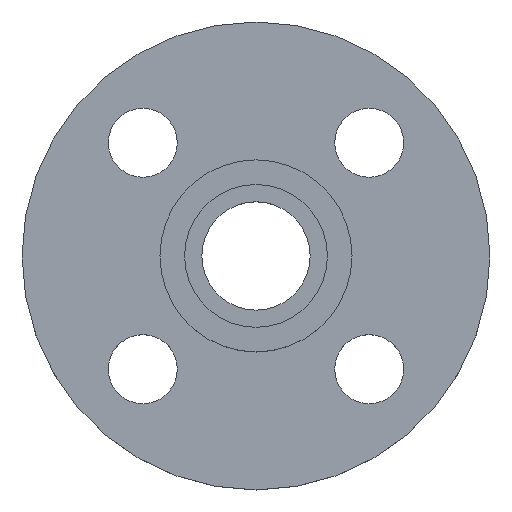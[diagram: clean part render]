
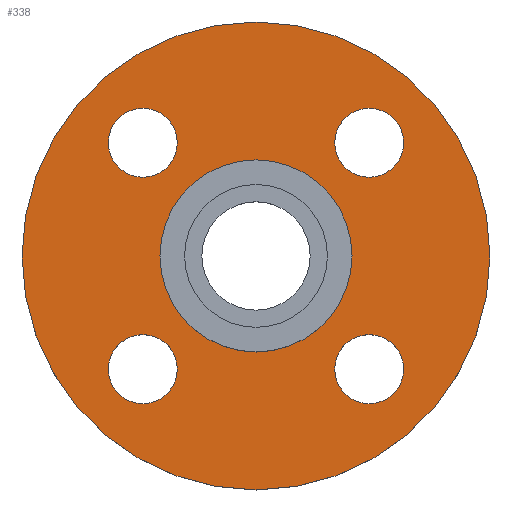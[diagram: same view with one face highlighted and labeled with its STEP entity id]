
A CAD part, top view. The second image highlights one B-rep face of the part: STEP entity #338.
In plain terms, the highlighted planar face has unit normal (0, 0, 1).
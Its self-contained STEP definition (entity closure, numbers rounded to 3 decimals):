
#3 = AXIS2_PLACEMENT_3D ( 'NONE', #528, #529, #531 ) ;
#13 = EDGE_CURVE ( 'NONE', #333, #339, #315, .T. ) ;
#14 = CIRCLE ( 'NONE', #19, 7. ) ;
#15 = AXIS2_PLACEMENT_3D ( 'NONE', #172, #166, #121 ) ;
#19 = AXIS2_PLACEMENT_3D ( 'NONE', #288, #289, #290 ) ;
#29 = AXIS2_PLACEMENT_3D ( 'NONE', #235, #237, #239 ) ;
#34 = AXIS2_PLACEMENT_3D ( 'NONE', #246, #249, #251 ) ;
#39 = CIRCLE ( 'NONE', #330, 7. ) ;
#44 = CIRCLE ( 'NONE', #29, 19.5 ) ;
#56 = EDGE_CURVE ( 'NONE', #501, #353, #106, .T. ) ;
#73 = AXIS2_PLACEMENT_3D ( 'NONE', #266, #267, #268 ) ;
#91 = CIRCLE ( 'NONE', #132, 47.5 ) ;
#106 = CIRCLE ( 'NONE', #324, 47.5 ) ;
#111 = EDGE_CURVE ( 'NONE', #506, #336, #203, .T. ) ;
#113 = CARTESIAN_POINT ( 'NONE',  ( -47.5, 0., -4.5 ) ) ;
#120 = CARTESIAN_POINT ( 'NONE',  ( 29.981, 22.981, -4.5 ) ) ;
#121 = DIRECTION ( 'NONE',  ( -1., 0., 0. ) ) ;
#122 = CIRCLE ( 'NONE', #186, 7. ) ;
#123 = DIRECTION ( 'NONE',  ( 0., 0., -1. ) ) ;
#125 = DIRECTION ( 'NONE',  ( 0., 0., -1. ) ) ;
#126 = CARTESIAN_POINT ( 'NONE',  ( -22.981, -22.981, -4.5 ) ) ;
#128 = DIRECTION ( 'NONE',  ( 1., 0., 0. ) ) ;
#130 = CIRCLE ( 'NONE', #34, 7. ) ;
#132 = AXIS2_PLACEMENT_3D ( 'NONE', #163, #125, #154 ) ;
#148 = DIRECTION ( 'NONE',  ( 1., 0., 0. ) ) ;
#152 = AXIS2_PLACEMENT_3D ( 'NONE', #126, #578, #148 ) ;
#154 = DIRECTION ( 'NONE',  ( -1., 0., 0. ) ) ;
#155 = EDGE_CURVE ( 'NONE', #336, #506, #122, .T. ) ;
#162 = EDGE_CURVE ( 'NONE', #363, #445, #184, .T. ) ;
#163 = CARTESIAN_POINT ( 'NONE',  ( 0., 0., -4.5 ) ) ;
#166 = DIRECTION ( 'NONE',  ( 0., 0., -1. ) ) ;
#170 = CIRCLE ( 'NONE', #152, 7. ) ;
#171 = CARTESIAN_POINT ( 'NONE',  ( 22.981, -22.981, -4.5 ) ) ;
#172 = CARTESIAN_POINT ( 'NONE',  ( 0., 0., -4.5 ) ) ;
#179 = AXIS2_PLACEMENT_3D ( 'NONE', #627, #628, #629 ) ;
#184 = CIRCLE ( 'NONE', #179, 7. ) ;
#186 = AXIS2_PLACEMENT_3D ( 'NONE', #623, #624, #625 ) ;
#194 = AXIS2_PLACEMENT_3D ( 'NONE', #612, #613, #614 ) ;
#203 = CIRCLE ( 'NONE', #194, 7. ) ;
#235 = CARTESIAN_POINT ( 'NONE',  ( 0., 0., -4.5 ) ) ;
#237 = DIRECTION ( 'NONE',  ( 0., 0., -1. ) ) ;
#239 = DIRECTION ( 'NONE',  ( -1., 0., 0. ) ) ;
#246 = CARTESIAN_POINT ( 'NONE',  ( -22.981, 22.981, -4.5 ) ) ;
#249 = DIRECTION ( 'NONE',  ( 0., 0., -1. ) ) ;
#251 = DIRECTION ( 'NONE',  ( 1., 0., 0. ) ) ;
#253 = CARTESIAN_POINT ( 'NONE',  ( -15.981, -22.981, -4.5 ) ) ;
#257 = CARTESIAN_POINT ( 'NONE',  ( 15.981, 22.981, -4.5 ) ) ;
#258 = FACE_BOUND ( 'NONE', #473, .T. ) ;
#260 = FACE_BOUND ( 'NONE', #362, .T. ) ;
#261 = FACE_BOUND ( 'NONE', #350, .T. ) ;
#262 = FACE_BOUND ( 'NONE', #348, .T. ) ;
#263 = FACE_BOUND ( 'NONE', #450, .T. ) ;
#264 = FACE_OUTER_BOUND ( 'NONE', #493, .T. ) ;
#265 = PLANE ( 'NONE',  #73 ) ;
#266 = CARTESIAN_POINT ( 'NONE',  ( 19.5, 0., -4.5 ) ) ;
#267 = DIRECTION ( 'NONE',  ( 0., 0., 1. ) ) ;
#268 = DIRECTION ( 'NONE',  ( 1., 0., 0. ) ) ;
#269 = CARTESIAN_POINT ( 'NONE',  ( -29.981, -22.981, -4.5 ) ) ;
#274 = CARTESIAN_POINT ( 'NONE',  ( 29.981, -22.981, -4.5 ) ) ;
#275 = CARTESIAN_POINT ( 'NONE',  ( 47.5, 0., -4.5 ) ) ;
#276 = CARTESIAN_POINT ( 'NONE',  ( 19.5, 0., -4.5 ) ) ;
#280 = CARTESIAN_POINT ( 'NONE',  ( 15.981, -22.981, -4.5 ) ) ;
#282 = CARTESIAN_POINT ( 'NONE',  ( -15.981, 22.981, -4.5 ) ) ;
#283 = CARTESIAN_POINT ( 'NONE',  ( -19.5, 0., -4.5 ) ) ;
#288 = CARTESIAN_POINT ( 'NONE',  ( 22.981, -22.981, -4.5 ) ) ;
#289 = DIRECTION ( 'NONE',  ( 0., 0., -1. ) ) ;
#290 = DIRECTION ( 'NONE',  ( 1., 0., 0. ) ) ;
#308 = CARTESIAN_POINT ( 'NONE',  ( -29.981, 22.981, -4.5 ) ) ;
#315 = CIRCLE ( 'NONE', #3, 7. ) ;
#324 = AXIS2_PLACEMENT_3D ( 'NONE', #563, #564, #565 ) ;
#326 = EDGE_CURVE ( 'NONE', #355, #364, #44, .T. ) ;
#327 = CIRCLE ( 'NONE', #15, 19.5 ) ;
#329 = EDGE_CURVE ( 'NONE', #445, #363, #130, .T. ) ;
#330 = AXIS2_PLACEMENT_3D ( 'NONE', #171, #123, #128 ) ;
#333 = VERTEX_POINT ( 'NONE', #253 ) ;
#336 = VERTEX_POINT ( 'NONE', #257 ) ;
#338 = ADVANCED_FACE ( 'NONE', ( #258, #260, #261, #262, #263, #264 ), #265, .T. ) ;
#339 = VERTEX_POINT ( 'NONE', #269 ) ;
#347 = VERTEX_POINT ( 'NONE', #274 ) ;
#348 = EDGE_LOOP ( 'NONE', ( #421, #422 ) ) ;
#350 = EDGE_LOOP ( 'NONE', ( #419, #420 ) ) ;
#353 = VERTEX_POINT ( 'NONE', #275 ) ;
#355 = VERTEX_POINT ( 'NONE', #276 ) ;
#361 = VERTEX_POINT ( 'NONE', #280 ) ;
#362 = EDGE_LOOP ( 'NONE', ( #417, #418 ) ) ;
#363 = VERTEX_POINT ( 'NONE', #282 ) ;
#364 = VERTEX_POINT ( 'NONE', #283 ) ;
#384 = EDGE_CURVE ( 'NONE', #347, #361, #14, .T. ) ;
#415 = ORIENTED_EDGE ( 'NONE', *, *, #384, .T. ) ;
#416 = ORIENTED_EDGE ( 'NONE', *, *, #626, .T. ) ;
#417 = ORIENTED_EDGE ( 'NONE', *, *, #13, .T. ) ;
#418 = ORIENTED_EDGE ( 'NONE', *, *, #632, .T. ) ;
#419 = ORIENTED_EDGE ( 'NONE', *, *, #162, .T. ) ;
#420 = ORIENTED_EDGE ( 'NONE', *, *, #329, .T. ) ;
#421 = ORIENTED_EDGE ( 'NONE', *, *, #111, .T. ) ;
#422 = ORIENTED_EDGE ( 'NONE', *, *, #155, .T. ) ;
#423 = ORIENTED_EDGE ( 'NONE', *, *, #561, .T. ) ;
#424 = ORIENTED_EDGE ( 'NONE', *, *, #326, .T. ) ;
#425 = ORIENTED_EDGE ( 'NONE', *, *, #649, .F. ) ;
#426 = ORIENTED_EDGE ( 'NONE', *, *, #56, .F. ) ;
#445 = VERTEX_POINT ( 'NONE', #308 ) ;
#450 = EDGE_LOOP ( 'NONE', ( #423, #424 ) ) ;
#473 = EDGE_LOOP ( 'NONE', ( #415, #416 ) ) ;
#493 = EDGE_LOOP ( 'NONE', ( #425, #426 ) ) ;
#501 = VERTEX_POINT ( 'NONE', #113 ) ;
#506 = VERTEX_POINT ( 'NONE', #120 ) ;
#528 = CARTESIAN_POINT ( 'NONE',  ( -22.981, -22.981, -4.5 ) ) ;
#529 = DIRECTION ( 'NONE',  ( 0., 0., -1. ) ) ;
#531 = DIRECTION ( 'NONE',  ( 1., 0., 0. ) ) ;
#561 = EDGE_CURVE ( 'NONE', #364, #355, #327, .T. ) ;
#563 = CARTESIAN_POINT ( 'NONE',  ( 0., 0., -4.5 ) ) ;
#564 = DIRECTION ( 'NONE',  ( 0., 0., -1. ) ) ;
#565 = DIRECTION ( 'NONE',  ( -1., 0., 0. ) ) ;
#578 = DIRECTION ( 'NONE',  ( 0., 0., -1. ) ) ;
#612 = CARTESIAN_POINT ( 'NONE',  ( 22.981, 22.981, -4.5 ) ) ;
#613 = DIRECTION ( 'NONE',  ( 0., 0., -1. ) ) ;
#614 = DIRECTION ( 'NONE',  ( 1., 0., 0. ) ) ;
#623 = CARTESIAN_POINT ( 'NONE',  ( 22.981, 22.981, -4.5 ) ) ;
#624 = DIRECTION ( 'NONE',  ( 0., 0., -1. ) ) ;
#625 = DIRECTION ( 'NONE',  ( 1., 0., 0. ) ) ;
#626 = EDGE_CURVE ( 'NONE', #361, #347, #39, .T. ) ;
#627 = CARTESIAN_POINT ( 'NONE',  ( -22.981, 22.981, -4.5 ) ) ;
#628 = DIRECTION ( 'NONE',  ( 0., 0., -1. ) ) ;
#629 = DIRECTION ( 'NONE',  ( 1., 0., 0. ) ) ;
#632 = EDGE_CURVE ( 'NONE', #339, #333, #170, .T. ) ;
#649 = EDGE_CURVE ( 'NONE', #353, #501, #91, .T. ) ;
